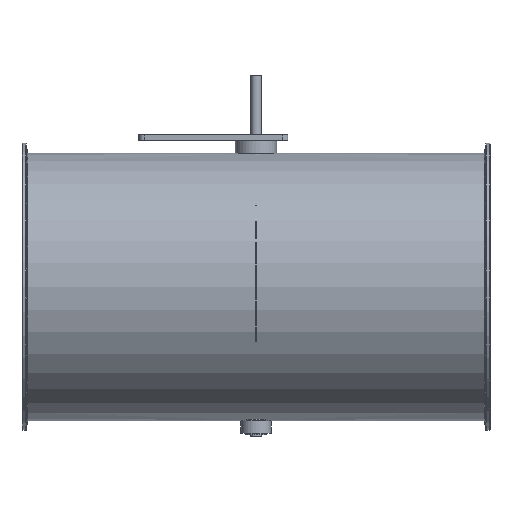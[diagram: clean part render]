
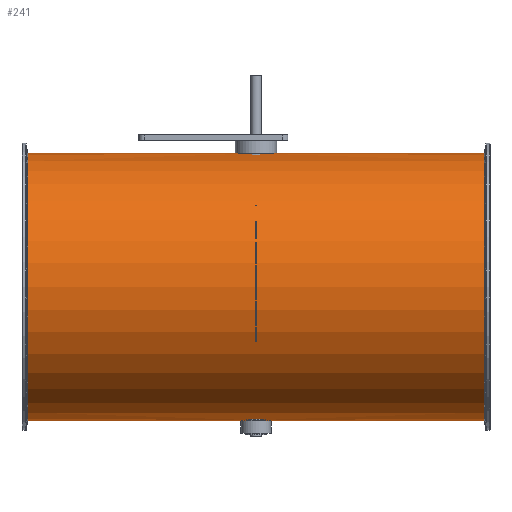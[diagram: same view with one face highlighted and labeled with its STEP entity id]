
A CAD part, top view. The second image highlights one B-rep face of the part: STEP entity #241.
In plain terms, the highlighted cylindrical face has radius 125.8 mm (diameter 251.6 mm), a full revolution.
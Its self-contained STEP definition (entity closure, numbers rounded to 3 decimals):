
#103=B_SPLINE_CURVE_WITH_KNOTS('',3,(#1393,#1394,#1395,#1396,#1397,#1398,
#1399,#1400,#1401,#1402,#1403,#1404,#1405,#1406,#1407,#1408,#1409,#1410),
 .UNSPECIFIED.,.T.,.F.,(2,2,2,2,2,2,2,2,2,2,2),(-0.125,0.,0.125,
0.25,0.375,0.5,0.625,
0.75,0.875,1.,1.125),.UNSPECIFIED.);
#104=B_SPLINE_CURVE_WITH_KNOTS('',3,(#1412,#1413,#1414,#1415,#1416,#1417,
#1418,#1419,#1420,#1421,#1422,#1423,#1424,#1425,#1426,#1427,#1428,#1429),
 .UNSPECIFIED.,.T.,.F.,(2,2,2,2,2,2,2,2,2,2,2),(-0.125,0.,0.125,
0.25,0.375,0.5,0.625,
0.75,0.875,1.,1.125),.UNSPECIFIED.);
#198=CYLINDRICAL_SURFACE('',#962,125.8);
#241=ADVANCED_FACE('',(#333,#334,#335,#336),#198,.T.);
#333=FACE_BOUND('',#445,.T.);
#334=FACE_BOUND('',#446,.T.);
#335=FACE_BOUND('',#447,.T.);
#336=FACE_BOUND('',#448,.T.);
#445=EDGE_LOOP('',(#599));
#446=EDGE_LOOP('',(#600));
#447=EDGE_LOOP('',(#601));
#448=EDGE_LOOP('',(#602));
#599=ORIENTED_EDGE('',*,*,#803,.T.);
#600=ORIENTED_EDGE('',*,*,#804,.F.);
#601=ORIENTED_EDGE('',*,*,#805,.F.);
#602=ORIENTED_EDGE('',*,*,#806,.T.);
#721=VERTEX_POINT('',#1392);
#722=VERTEX_POINT('',#1411);
#723=VERTEX_POINT('',#1430);
#724=VERTEX_POINT('',#1432);
#803=EDGE_CURVE('',#721,#721,#873,.T.);
#804=EDGE_CURVE('',#722,#722,#103,.T.);
#805=EDGE_CURVE('',#723,#723,#104,.T.);
#806=EDGE_CURVE('',#724,#724,#874,.T.);
#873=CIRCLE('',#960,125.8);
#874=CIRCLE('',#961,125.8);
#960=AXIS2_PLACEMENT_3D('',#1391,#1150,#1151);
#961=AXIS2_PLACEMENT_3D('',#1431,#1152,#1153);
#962=AXIS2_PLACEMENT_3D('',#1433,#1154,#1155);
#1150=DIRECTION('',(-1.,0.,0.));
#1151=DIRECTION('',(0.,0.,-1.));
#1152=DIRECTION('',(1.,0.,0.));
#1153=DIRECTION('',(0.,0.,1.));
#1154=DIRECTION('',(1.,0.,0.));
#1155=DIRECTION('',(0.,0.,-1.));
#1391=CARTESIAN_POINT('',(214.804,-51.,125.));
#1392=CARTESIAN_POINT('',(214.804,-51.,-0.8));
#1393=CARTESIAN_POINT('',(2.644,74.402,115.));
#1394=CARTESIAN_POINT('',(-2.644,74.402,115.));
#1395=CARTESIAN_POINT('',(-5.228,74.497,116.085));
#1396=CARTESIAN_POINT('',(-8.916,74.705,119.774));
#1397=CARTESIAN_POINT('',(-9.999,74.8,122.385));
#1398=CARTESIAN_POINT('',(-10.001,74.8,127.604));
#1399=CARTESIAN_POINT('',(-8.941,74.706,130.2));
#1400=CARTESIAN_POINT('',(-5.208,74.496,133.936));
#1401=CARTESIAN_POINT('',(-2.614,74.402,134.999));
#1402=CARTESIAN_POINT('',(2.607,74.402,135.001));
#1403=CARTESIAN_POINT('',(5.219,74.497,133.92));
#1404=CARTESIAN_POINT('',(8.91,74.705,130.236));
#1405=CARTESIAN_POINT('',(9.997,74.8,127.65));
#1406=CARTESIAN_POINT('',(10.003,74.8,122.369));
#1407=CARTESIAN_POINT('',(8.92,74.705,119.781));
#1408=CARTESIAN_POINT('',(5.233,74.498,116.088));
#1409=CARTESIAN_POINT('',(2.644,74.402,115.));
#1410=CARTESIAN_POINT('',(-2.644,74.402,115.));
#1411=CARTESIAN_POINT('',(0.,74.402,115.));
#1412=CARTESIAN_POINT('',(-2.644,-176.402,115.));
#1413=CARTESIAN_POINT('',(2.644,-176.402,115.));
#1414=CARTESIAN_POINT('',(5.228,-176.497,116.085));
#1415=CARTESIAN_POINT('',(8.916,-176.705,119.774));
#1416=CARTESIAN_POINT('',(9.999,-176.8,122.385));
#1417=CARTESIAN_POINT('',(10.001,-176.8,127.604));
#1418=CARTESIAN_POINT('',(8.941,-176.706,130.2));
#1419=CARTESIAN_POINT('',(5.208,-176.496,133.936));
#1420=CARTESIAN_POINT('',(2.614,-176.402,134.999));
#1421=CARTESIAN_POINT('',(-2.607,-176.402,135.001));
#1422=CARTESIAN_POINT('',(-5.219,-176.497,133.92));
#1423=CARTESIAN_POINT('',(-8.91,-176.705,130.236));
#1424=CARTESIAN_POINT('',(-9.997,-176.8,127.65));
#1425=CARTESIAN_POINT('',(-10.003,-176.8,122.369));
#1426=CARTESIAN_POINT('',(-8.92,-176.705,119.781));
#1427=CARTESIAN_POINT('',(-5.233,-176.498,116.088));
#1428=CARTESIAN_POINT('',(-2.644,-176.402,115.));
#1429=CARTESIAN_POINT('',(2.644,-176.402,115.));
#1430=CARTESIAN_POINT('',(0.,-176.402,115.));
#1431=CARTESIAN_POINT('',(-214.804,-51.,125.));
#1432=CARTESIAN_POINT('',(-214.804,-51.,250.8));
#1433=CARTESIAN_POINT('',(-220.,-51.,125.));
